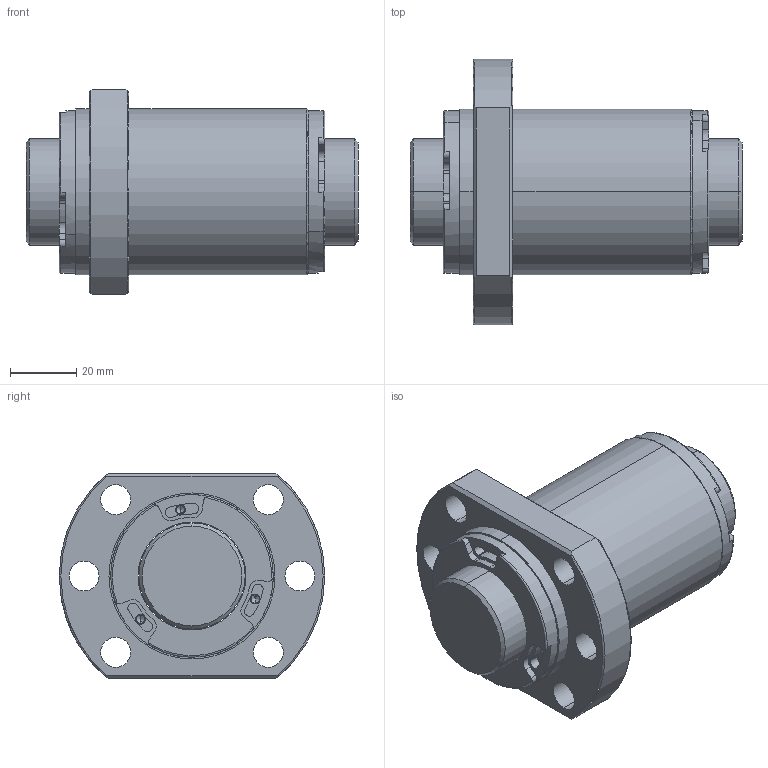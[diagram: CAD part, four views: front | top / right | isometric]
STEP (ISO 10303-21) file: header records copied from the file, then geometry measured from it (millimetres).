
FILE_DESCRIPTION (( 'STEP AP203' ), '1' );
FILE_NAME ('SFHR03220B1D-C.STEP', '2020-06-17T08:08:52', ( '' ), ( '' ), 'SwSTEP 2.0', 'SolidWorks 2013', '' );
FILE_SCHEMA (( 'CONFIG_CONTROL_DESIGN' ));
Length unit declared in the file: millimetre
Products named in the file (1): SFHR03220B1D-C
Bounding box: 100 x 80 x 62 mm (x, y, z)
Volume: 189674.5 mm3; surface area: 42807.2 mm2
Topology: 2 solids, 2 shells, 194 faces, 502 edges, 318 vertices
Faces by surface type: cylinder 112, plane 40, cone 28, torus 14
Entity records: 6295 total; most frequent: CARTESIAN_POINT 1331, DIRECTION 1114, ORIENTED_EDGE 980, EDGE_CURVE 490, AXIS2_PLACEMENT_3D 461, VERTEX_POINT 318, CIRCLE 266, EDGE_LOOP 228
